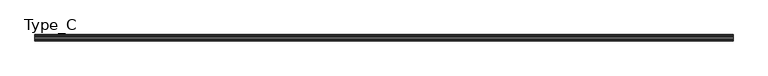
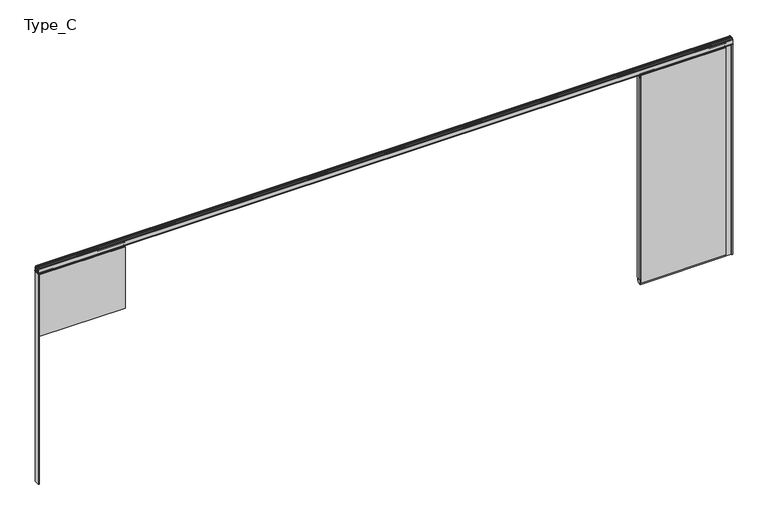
"""IFC4 building model written with IfcOpenShell, lengths in millimetres: proxy geometry, Planner Wall フラッシュパネル(Door) : Type_C."""

from ifc_helpers import new_model, si_unit, point, frame, frame_2d, origin, origin_with_axes, place, context, project, spatial, polyline, circle_curve, trimmed, segment, composite_curve, outline, extrude, source, transform, mapped, element, save


def type_c_87207ea0(model_context):
    return source(origin(), model_context, "Body", "SweptSolid", [
        extrude(outline(composite_curve([segment(polyline([(23.5, 3050.1000003), (26.5, 3047.1000003), (26.5, 3032.6)]), True, "CONTINUOUS"), segment(trimmed(circle_curve(frame_2d((25.0, 3032.6)), 1.5), [point((26.5, 3032.6))], [point((25.0, 3031.1))], False, "CARTESIAN"), True, "CONTINUOUS"), segment(polyline([(25.0, 3031.1), (9.0, 3031.1), (9.0, 3019.1000003), (23.5, 3019.1000003), (26.5, 3016.1000003), (26.5, 3001.5)]), True, "CONTINUOUS"), segment(trimmed(circle_curve(frame_2d((25.0, 3001.5)), 1.5), [point((26.5, 3001.5))], [point((25.0, 3000.0))], False, "CARTESIAN"), True, "CONTINUOUS"), segment(polyline([(25.0, 3000.0), (7.5, 3000.0), (7.5, 2994.5), (25.0, 2994.5), (25.0, 2935.0), (-25.0, 2935.0), (-25.0, 2994.5), (-7.5, 2994.5), (-7.5, 3000.0), (-25.0, 3000.0)]), True, "CONTINUOUS"), segment(trimmed(circle_curve(frame_2d((-25.0, 3001.5)), 1.5), [point((-25.0, 3000.0))], [point((-26.5, 3001.5))], False, "CARTESIAN"), True, "CONTINUOUS"), segment(polyline([(-26.5, 3001.5), (-26.5, 3016.1000003), (-23.5, 3019.1000003), (-9.0, 3019.1000003), (-9.0, 3031.1), (-25.0, 3031.1)]), True, "CONTINUOUS"), segment(trimmed(circle_curve(frame_2d((-25.0, 3032.6)), 1.5), [point((-25.0, 3031.1))], [point((-26.5, 3032.6))], False, "CARTESIAN"), True, "CONTINUOUS"), segment(polyline([(-26.5, 3032.6), (-26.5, 3047.1000003), (-23.5, 3050.1000003), (23.5, 3050.1000003)]), True, "CONTINUOUS")], self_intersect=False)), frame((21.5, 0.0, 0.0), z_axis=(1.0, 0.0, 0.0), x_axis=(0.0, 1.0, 0.0)), (0.0, 0.0, 1.0), 1147.625),
        extrude(outline(polyline([(1169.125, 24.9), (21.5, 24.9), (21.5, 35.0), (1169.125, 35.0), (1169.125, 24.9)])), frame((0.0, 0.0, 2100.0), z_axis=(0.0, 0.0, 1.0), x_axis=(1.0, 0.0, 0.0)), (0.0, 0.0, 1.0), 875.0),
        extrude(outline(polyline([(1169.125, -35.0), (21.5, -35.0), (21.5, -24.9), (1169.125, -24.9), (1169.125, -35.0)])), frame((0.0, 0.0, 2100.0), z_axis=(0.0, 0.0, 1.0), x_axis=(1.0, 0.0, 0.0)), (0.0, 0.0, 1.0), 875.0),
        extrude(outline(polyline([(8.0, -25.0), (8.0, 25.0), (21.5, 25.0), (21.5, -25.0), (8.0, -25.0)])), frame((0.0, 0.0, 53.0), z_axis=(0.0, 0.0, 1.0), x_axis=(1.0, 0.0, 0.0)), (0.0, 0.0, 1.0), 2869.0),
        extrude(outline(polyline([(8110.875, -25.0), (8110.875, 25.0), (9253.0, 25.0), (9253.0, -25.0), (8110.875, -25.0)])), origin_with_axes(), (0.0, 0.0, 1.0), 65.0),
        extrude(outline(polyline([(9253.0, -19.5), (9253.0, 19.5), (9335.5, 19.5), (9335.5, 25.0), (9342.0, 25.0), (9342.0, -25.0), (9335.5, -25.0), (9335.5, -19.5), (9253.0, -19.5)])), origin_with_axes(), (0.0, 0.0, 1.0), 2994.0),
        extrude(outline(composite_curve([segment(polyline([(23.5, 3050.1000003), (26.5, 3047.1000003), (26.5, 3032.6)]), True, "CONTINUOUS"), segment(trimmed(circle_curve(frame_2d((25.0, 3032.6)), 1.5), [point((26.5, 3032.6))], [point((25.0, 3031.1))], False, "CARTESIAN"), True, "CONTINUOUS"), segment(polyline([(25.0, 3031.1), (9.0, 3031.1), (9.0, 3019.1000003), (23.5, 3019.1000003), (26.5, 3016.1000003), (26.5, 3001.5)]), True, "CONTINUOUS"), segment(trimmed(circle_curve(frame_2d((25.0, 3001.5)), 1.5), [point((26.5, 3001.5))], [point((25.0, 3000.0))], False, "CARTESIAN"), True, "CONTINUOUS"), segment(polyline([(25.0, 3000.0), (7.5, 3000.0), (7.5, 2994.5), (25.0, 2994.5), (25.0, 2935.0), (-25.0, 2935.0), (-25.0, 2994.5), (-7.5, 2994.5), (-7.5, 3000.0), (-25.0, 3000.0)]), True, "CONTINUOUS"), segment(trimmed(circle_curve(frame_2d((-25.0, 3001.5)), 1.5), [point((-25.0, 3000.0))], [point((-26.5, 3001.5))], False, "CARTESIAN"), True, "CONTINUOUS"), segment(polyline([(-26.5, 3001.5), (-26.5, 3016.1000003), (-23.5, 3019.1000003), (-9.0, 3019.1000003), (-9.0, 3031.1), (-25.0, 3031.1)]), True, "CONTINUOUS"), segment(trimmed(circle_curve(frame_2d((-25.0, 3032.6)), 1.5), [point((-25.0, 3031.1))], [point((-26.5, 3032.6))], False, "CARTESIAN"), True, "CONTINUOUS"), segment(polyline([(-26.5, 3032.6), (-26.5, 3047.1000003), (-23.5, 3050.1000003), (23.5, 3050.1000003)]), True, "CONTINUOUS")], self_intersect=False)), frame((8110.875, 0.0, 0.0), z_axis=(1.0, 0.0, 0.0), x_axis=(0.0, 1.0, 0.0)), (0.0, 0.0, 1.0), 1147.625),
        extrude(outline(polyline([(9258.5, 24.9), (8110.875, 24.9), (8110.875, 35.0), (9258.5, 35.0), (9258.5, 24.9)])), frame((0.0, 0.0, 25.0), z_axis=(0.0, 0.0, 1.0), x_axis=(1.0, 0.0, 0.0)), (0.0, 0.0, 1.0), 2950.0),
        extrude(outline(polyline([(9258.5, -35.0), (8110.875, -35.0), (8110.875, -24.9), (9258.5, -24.9), (9258.5, -35.0)])), frame((0.0, 0.0, 25.0), z_axis=(0.0, 0.0, 1.0), x_axis=(1.0, 0.0, 0.0)), (0.0, 0.0, 1.0), 2950.0),
        extrude(outline(polyline([(8097.375, -25.0), (8097.375, 25.0), (8110.875, 25.0), (8110.875, -25.0), (8097.375, -25.0)])), frame((0.0, 0.0, 78.0), z_axis=(0.0, 0.0, 1.0), x_axis=(1.0, 0.0, 0.0)), (0.0, 0.0, 1.0), 2897.0),
        extrude(outline(polyline([(0.0, -35.0), (0.0, 35.0), (13.5, 35.0), (13.5, 25.0), (8.0, 25.0), (8.0, -25.0), (13.5, -25.0), (13.5, -35.0), (0.0, -35.0)])), origin_with_axes(), (0.0, 0.0, 1.0), 2994.0),
        extrude(outline(composite_curve([segment(trimmed(circle_curve(frame_2d((-26.5, 3056.0)), 5.0), [point((-31.5, 3056.0))], [point((-26.1165175, 3060.9852724))], False, "CARTESIAN"), True, "CONTINUOUS"), segment(polyline([(-26.1165175, 3060.9852724), (-24.5, 3060.9852724), (-24.5, 3075.0)]), True, "CONTINUOUS"), segment(trimmed(circle_curve(frame_2d((-21.5, 3075.0)), 3.0), [point((-24.5, 3075.0))], [point((-21.5, 3078.0))], False, "CARTESIAN"), True, "CONTINUOUS"), segment(polyline([(-21.5, 3078.0), (-14.0, 3078.0)]), True, "CONTINUOUS"), segment(trimmed(circle_curve(frame_2d((-14.0, 3076.5)), 1.5), [point((-14.0, 3078.0))], [point((-12.5, 3076.5))], False, "CARTESIAN"), True, "CONTINUOUS"), segment(polyline([(-12.5, 3076.5), (-12.5, 3074.5)]), True, "CONTINUOUS"), segment(trimmed(circle_curve(frame_2d((-13.0, 3074.5)), 0.5), [point((-12.5, 3074.5))], [point((-13.0, 3074.0))], False, "CARTESIAN"), True, "CONTINUOUS"), segment(polyline([(-13.0, 3074.0), (-19.0, 3074.0)]), True, "CONTINUOUS"), segment(trimmed(circle_curve(frame_2d((-19.0, 3072.5)), 1.5), [point((-19.0, 3074.0))], [point((-20.5, 3072.5))], True, "CARTESIAN"), True, "CONTINUOUS"), segment(polyline([(-20.5, 3072.5), (-20.5, 3062.5)]), True, "CONTINUOUS"), segment(trimmed(circle_curve(frame_2d((-19.0, 3062.5)), 1.5), [point((-20.5, 3062.5))], [point((-19.0, 3061.0))], True, "CARTESIAN"), True, "CONTINUOUS"), segment(polyline([(-19.0, 3061.0), (19.0, 3061.0)]), True, "CONTINUOUS"), segment(trimmed(circle_curve(frame_2d((19.0, 3062.5)), 1.5), [point((19.0, 3061.0))], [point((20.5, 3062.5))], True, "CARTESIAN"), True, "CONTINUOUS"), segment(polyline([(20.5, 3062.5), (20.5, 3072.5)]), True, "CONTINUOUS"), segment(trimmed(circle_curve(frame_2d((19.0, 3072.5)), 1.5), [point((20.5, 3072.5))], [point((19.0, 3074.0))], True, "CARTESIAN"), True, "CONTINUOUS"), segment(polyline([(19.0, 3074.0), (13.0, 3074.0)]), True, "CONTINUOUS"), segment(trimmed(circle_curve(frame_2d((13.0, 3074.5)), 0.5), [point((13.0, 3074.0))], [point((12.5, 3074.5))], False, "CARTESIAN"), True, "CONTINUOUS"), segment(polyline([(12.5, 3074.5), (12.5, 3076.5)]), True, "CONTINUOUS"), segment(trimmed(circle_curve(frame_2d((14.0, 3076.5)), 1.5), [point((12.5, 3076.5))], [point((14.0, 3078.0))], False, "CARTESIAN"), True, "CONTINUOUS"), segment(polyline([(14.0, 3078.0), (21.5, 3078.0)]), True, "CONTINUOUS"), segment(trimmed(circle_curve(frame_2d((21.5, 3075.0)), 3.0), [point((21.5, 3078.0))], [point((24.5, 3075.0))], False, "CARTESIAN"), True, "CONTINUOUS"), segment(polyline([(24.5, 3075.0), (24.5, 3060.9852724), (26.1165175, 3060.9852724)]), True, "CONTINUOUS"), segment(trimmed(circle_curve(frame_2d((26.5, 3056.0)), 5.0), [point((26.1165175, 3060.9852724))], [point((31.5, 3056.0))], False, "CARTESIAN"), True, "CONTINUOUS"), segment(polyline([(31.5, 3056.0), (31.5, 3000.0), (42.5, 3000.0), (42.5, 2994.0), (11.0, 2994.0), (11.0, 3000.0), (26.9, 3000.0), (26.9, 3007.0786797), (27.9, 3009.3213203), (27.9, 3052.0)]), True, "CONTINUOUS"), segment(trimmed(circle_curve(frame_2d((22.9, 3052.0)), 5.0), [point((27.9, 3052.0))], [point((22.9, 3057.0))], True, "CARTESIAN"), True, "CONTINUOUS"), segment(polyline([(22.9, 3057.0), (-22.9, 3057.0)]), True, "CONTINUOUS"), segment(trimmed(circle_curve(frame_2d((-22.9, 3052.0)), 5.0), [point((-22.9, 3057.0))], [point((-27.9, 3052.0))], True, "CARTESIAN"), True, "CONTINUOUS"), segment(polyline([(-27.9, 3052.0), (-27.9, 3009.3213203), (-26.9, 3007.0786797), (-26.9, 3000.0), (-11.0, 3000.0), (-11.0, 2994.0), (-42.5, 2994.0), (-42.5, 3000.0), (-31.5, 3000.0), (-31.5, 3056.0)]), True, "CONTINUOUS")], self_intersect=False)), frame((0.0, 0.0, 0.0), z_axis=(1.0, 0.0, 0.0), x_axis=(0.0, 1.0, 0.0)), (0.0, 0.0, 1.0), 9350.0),
        extrude(outline(polyline([(9350.0, -35.0), (9336.5, -35.0), (9336.5, -25.0), (9342.0, -25.0), (9342.0, 25.0), (9336.5, 25.0), (9336.5, 35.0), (9350.0, 35.0), (9350.0, -35.0)])), origin_with_axes(), (0.0, 0.0, 1.0), 2994.0),
        extrude(outline(polyline([(0.0, -35.0), (0.0, 35.0), (13.5, 35.0), (13.5, 25.0), (8.0, 25.0), (8.0, -25.0), (13.5, -25.0), (13.5, -35.0), (0.0, -35.0)])), origin_with_axes(), (0.0, 0.0, 1.0), 2994.0),
    ])


if __name__ == "__main__":
    model = new_model("IFC4")
    model_context = context("Model", 3, world=origin())
    ifc_project = project(units=[si_unit("LENGTHUNIT", "METRE", prefix="MILLI")], contexts=[model_context])
    site = spatial("IfcSite", under=ifc_project)
    building = spatial("IfcBuilding", under=site)
    placement = place(None, origin())
    type_c_shape = type_c_87207ea0(model_context)
    element("IfcBuildingElementProxy", 1, Name="Planner Wall フラッシュパネル(Door) : Type_C", ObjectType="Planner Wall フラッシュパネル(Door) : Type_C", at=placement, inside=building, context=model_context, shape_type="MappedRepresentation", body=[
        mapped(type_c_shape, transform((0.0, 0.0, 0.0), x_axis=(1.0, 0.0, 0.0), y_axis=(0.0, 1.0, 0.0), z_axis=(0.0, 0.0, 1.0))),
    ])
    save(model, "model.ifc")
